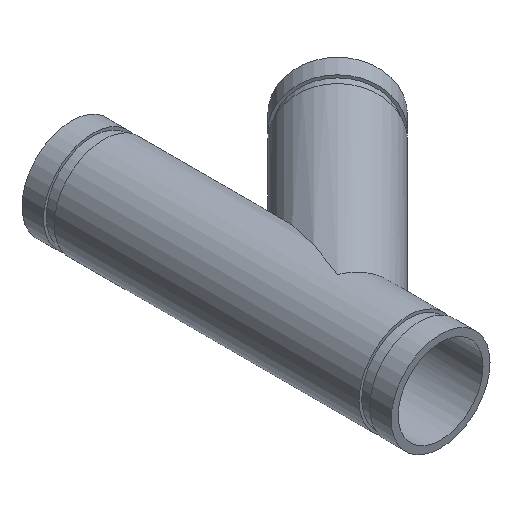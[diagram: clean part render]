
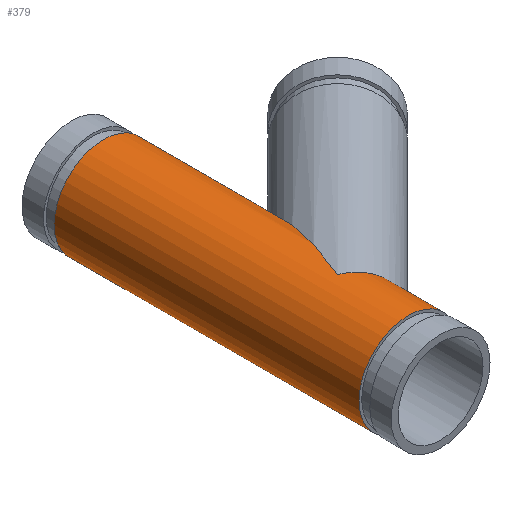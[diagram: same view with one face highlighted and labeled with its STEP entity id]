
A CAD part, isometric view. The second image highlights one B-rep face of the part: STEP entity #379.
In plain terms, the highlighted cylindrical face has radius 36.513 mm (diameter 73.025 mm), a full revolution.
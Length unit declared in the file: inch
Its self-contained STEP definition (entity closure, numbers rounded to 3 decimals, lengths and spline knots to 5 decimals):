
#45=ELLIPSE('',#439,3.75637,1.4375);
#46=ELLIPSE('',#440,3.75637,1.4375);
#47=ELLIPSE('',#441,1.55594,1.4375);
#57=LINE('',#676,#68);
#68=VECTOR('',#544,1.4375);
#79=CYLINDRICAL_SURFACE('',#438,1.4375);
#90=FACE_BOUND('',#131,.T.);
#105=FACE_OUTER_BOUND('',#130,.T.);
#130=EDGE_LOOP('',(#292,#293,#294,#295));
#131=EDGE_LOOP('',(#296,#297,#298));
#154=CIRCLE('',#426,1.4375);
#155=CIRCLE('',#428,1.4375);
#181=VERTEX_POINT('',#653);
#182=VERTEX_POINT('',#656);
#189=VERTEX_POINT('',#677);
#190=VERTEX_POINT('',#678);
#191=VERTEX_POINT('',#680);
#218=EDGE_CURVE('',#181,#181,#154,.T.);
#219=EDGE_CURVE('',#182,#182,#155,.T.);
#228=EDGE_CURVE('',#181,#182,#57,.T.);
#229=EDGE_CURVE('',#189,#190,#45,.T.);
#230=EDGE_CURVE('',#190,#191,#46,.T.);
#231=EDGE_CURVE('',#191,#189,#47,.T.);
#292=ORIENTED_EDGE('',*,*,#218,.T.);
#293=ORIENTED_EDGE('',*,*,#228,.T.);
#294=ORIENTED_EDGE('',*,*,#219,.T.);
#295=ORIENTED_EDGE('',*,*,#228,.F.);
#296=ORIENTED_EDGE('',*,*,#229,.T.);
#297=ORIENTED_EDGE('',*,*,#230,.T.);
#298=ORIENTED_EDGE('',*,*,#231,.T.);
#379=ADVANCED_FACE('',(#105,#90),#79,.T.);
#426=AXIS2_PLACEMENT_3D('',#654,#516,#517);
#428=AXIS2_PLACEMENT_3D('',#657,#520,#521);
#438=AXIS2_PLACEMENT_3D('',#675,#542,#543);
#439=AXIS2_PLACEMENT_3D('',#679,#545,#546);
#440=AXIS2_PLACEMENT_3D('',#681,#547,#548);
#441=AXIS2_PLACEMENT_3D('',#682,#549,#550);
#516=DIRECTION('center_axis',(0.,1.,0.));
#517=DIRECTION('ref_axis',(1.,0.,0.));
#520=DIRECTION('center_axis',(0.,-1.,0.));
#521=DIRECTION('ref_axis',(1.,0.,0.));
#542=DIRECTION('center_axis',(0.,-1.,0.));
#543=DIRECTION('ref_axis',(1.,0.,0.));
#544=DIRECTION('',(0.,1.,0.));
#545=DIRECTION('center_axis',(-0.924,0.383,0.));
#546=DIRECTION('ref_axis',(-0.383,-0.924,0.));
#547=DIRECTION('center_axis',(-0.924,0.383,0.));
#548=DIRECTION('ref_axis',(-0.383,-0.924,0.));
#549=DIRECTION('center_axis',(-0.383,-0.924,0.));
#550=DIRECTION('ref_axis',(0.924,-0.383,0.));
#653=CARTESIAN_POINT('',(-1.4375,-2.062,0.));
#654=CARTESIAN_POINT('Origin',(0.,-2.062,0.));
#656=CARTESIAN_POINT('',(-1.4375,6.812,0.));
#657=CARTESIAN_POINT('Origin',(0.,6.812,0.));
#675=CARTESIAN_POINT('Origin',(0.,7.75,0.));
#676=CARTESIAN_POINT('',(-1.4375,7.75,0.));
#677=CARTESIAN_POINT('',(0.,0.,1.4375));
#678=CARTESIAN_POINT('',(1.4375,3.47043,0.));
#679=CARTESIAN_POINT('Origin',(0.,0.,
0.));
#680=CARTESIAN_POINT('',(0.,0.,-1.4375));
#681=CARTESIAN_POINT('Origin',(0.,0.,
0.));
#682=CARTESIAN_POINT('Origin',(0.,0.,
0.));
